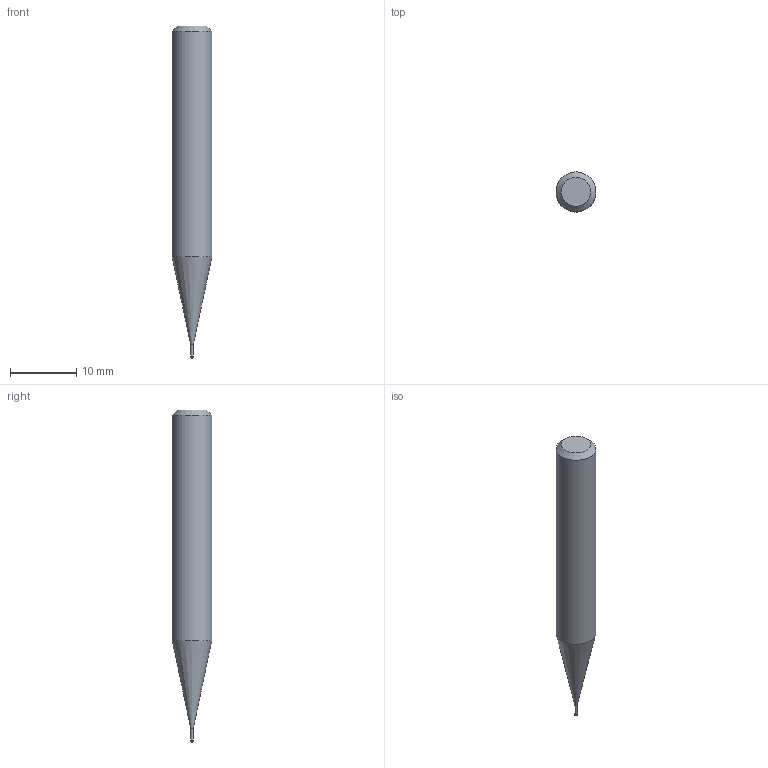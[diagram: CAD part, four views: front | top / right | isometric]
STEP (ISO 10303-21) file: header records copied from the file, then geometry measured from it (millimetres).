
FILE_DESCRIPTION((''),'2;1');
FILE_NAME('C:\Users\nsx150\AppData\Local\Temp\Mastercam 2021\17T8Q8S9EB\TEMP.step','2021-04-21T14:30:47',(''),(''),'STEP Write','Mastercam 2021 ... CNC Software, Inc.','');
FILE_SCHEMA(('AUTOMOTIVE_DESIGN'));
Length unit declared in the file: millimetre
Products named in the file (1): None
Bounding box: 6 x 6 x 50 mm (x, y, z)
Volume: 1110.4 mm3; surface area: 811.9 mm2
Topology: 2 solids, 2 shells, 10 faces, 14 edges, 8 vertices
Faces by surface type: plane 4, cylinder 3, cone 2, torus 1
Full cylindrical faces by diameter (mm): 0.37 x1, 0.4 x1, 6 x1
Entity records: 232 total; most frequent: DIRECTION 40, CARTESIAN_POINT 28, AXIS2_PLACEMENT_3D 20, ORIENTED_EDGE 16, EDGE_LOOP 16, STYLED_ITEM 13, ADVANCED_FACE 10, FACE_BOUND 10
